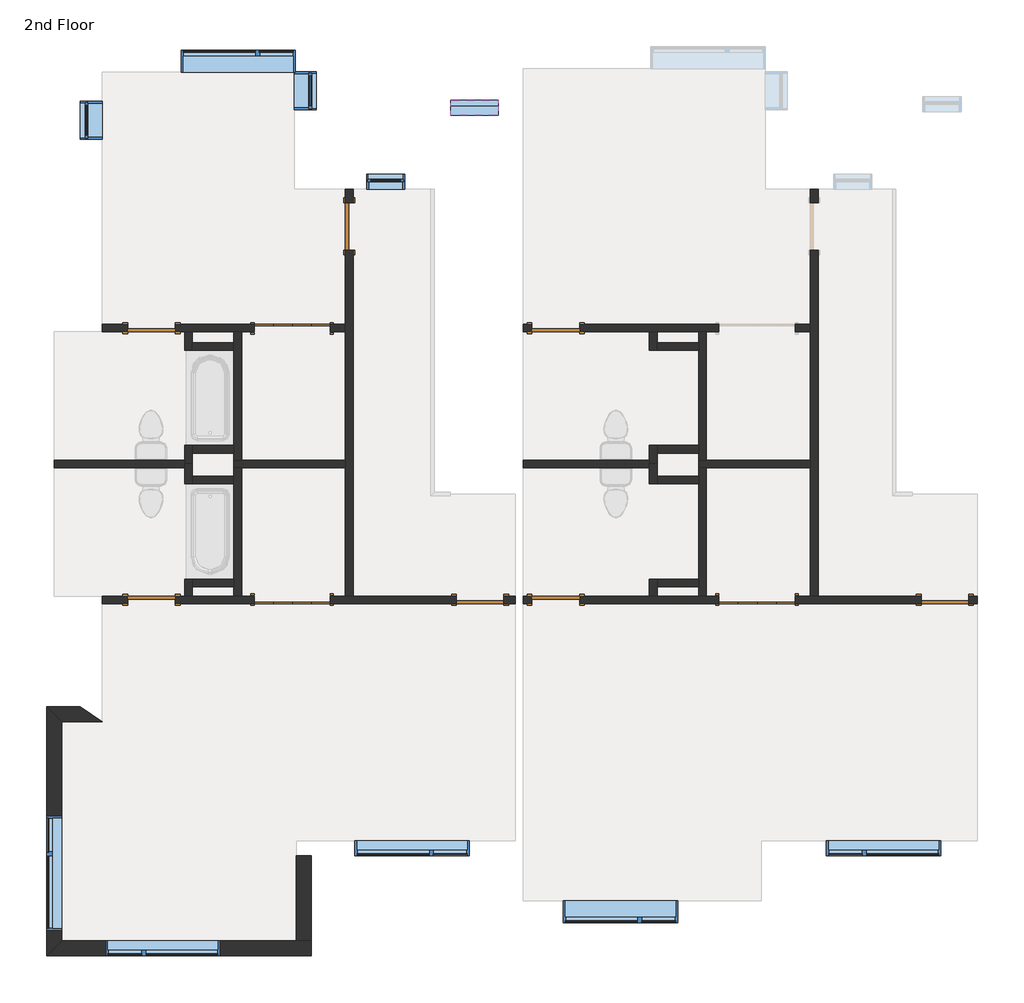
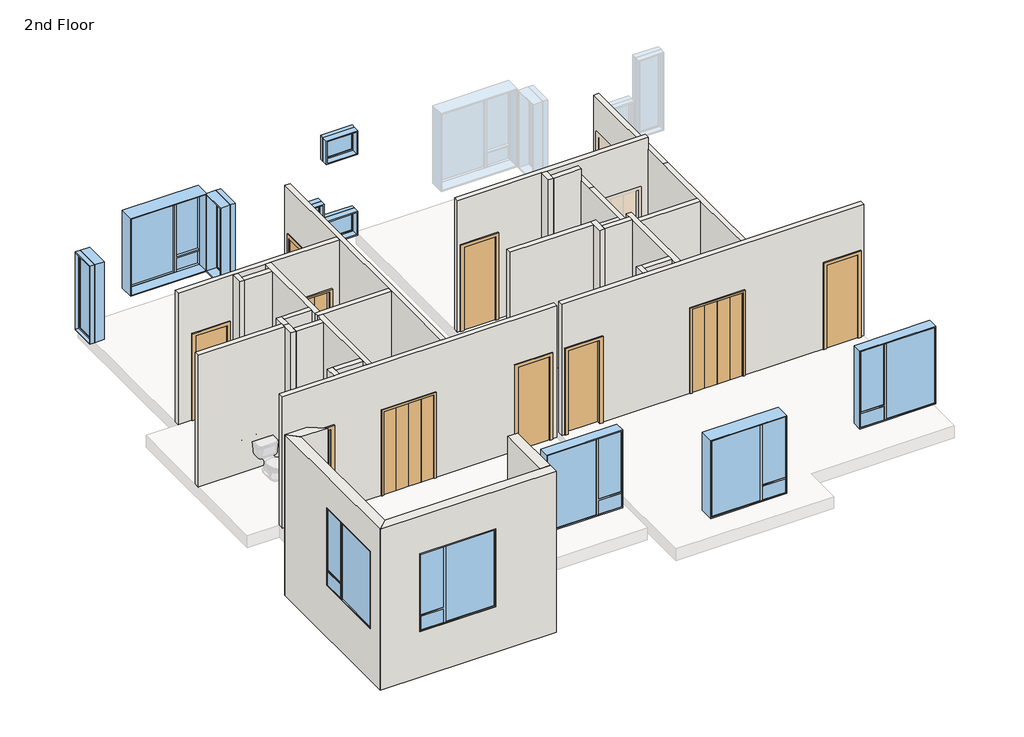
# One storey, part 1 of 2: 34 walls, 12 windows, 10 doors.
"""IFC4 building model written with IfcOpenShell, lengths in millimetres."""

from ifc_helpers import new_model, si_unit, frame, origin, place, context, project, spatial, polyline, outline, extrude, faceted_brep, transform, mapped, element, save
from components import bifold_4_panel_c9060b8c, bifold_4_panel_87549022, door_f8acb57e, door_702a1063, window_8bf192ed, window_b1c1038b, window_03925a3a, window_e558d9e9, window_dcb26459, window_1334fc74, window_9a4b9100

model = new_model("IFC4")

# Units and contexts
model_context = context("Model", 3, world=origin())
ifc_project = project(units=[si_unit("LENGTHUNIT", "METRE", prefix="MILLI")], contexts=[model_context])

# Site, building, storey
site = spatial("IfcSite", under=ifc_project)
building = spatial("IfcBuilding", under=site)
storey = spatial("IfcBuildingStorey", under=building, Name="2nd Floor", Elevation=3352.8)

# Doors
placement = place(None, origin())
bifold_4_panel_shape = bifold_4_panel_c9060b8c(model_context)
element("IfcDoor", 1, ObjectType="Bifold - 4 panel : 48\" x  84\"", at=placement, inside=storey, context=model_context, shape_type="MappedRepresentation", body=[
    mapped(bifold_4_panel_shape, transform((2169.4655789, -2059.4561915, 3352.8), x_axis=(1.0, 0.0, 0.0), y_axis=(0.0, 1.0, 0.0), z_axis=(0.0, 0.0, 1.0))),
])
element("IfcDoor", 2, ObjectType="Bifold - 4 panel : 48\" x  84\"", at=placement, inside=storey, context=model_context, shape_type="MappedRepresentation", body=[
    mapped(bifold_4_panel_shape, transform((-5271.2844211, -2059.4561915, 3352.8), x_axis=(1.0, 0.0, 0.0), y_axis=(0.0, 1.0, 0.0), z_axis=(0.0, 0.0, 1.0))),
])
bifold_4_panel_2_shape = bifold_4_panel_87549022(model_context)
element("IfcDoor", 3, ObjectType="Bifold - 4 panel : 48\" x  84\"", at=placement, inside=storey, context=model_context, shape_type="MappedRepresentation", body=[
    mapped(bifold_4_panel_2_shape, transform((-5271.2844211, 2292.6699206, 3352.8), x_axis=(1.0, 0.0, 0.0), y_axis=(0.0, 1.0, 0.0), z_axis=(0.0, 0.0, 1.0))),
])
door_shape = door_f8acb57e(model_context)
element("IfcDoor", 4, ObjectType="Single-Flush : 30\" x 84\"", at=placement, inside=storey, context=model_context, shape_type="MappedRepresentation", body=[
    mapped(door_shape, transform((-1052.2446781, 2292.6699206, 3352.8), x_axis=(-1.0, 0.0, 0.0), y_axis=(0.0, -1.0, 0.0), z_axis=(0.0, 0.0, 1.0))),
])
element("IfcDoor", 5, ObjectType="Single-Flush : 30\" x 84\"", at=placement, inside=storey, context=model_context, shape_type="MappedRepresentation", body=[
    mapped(door_shape, transform((-4356.8844211, 3921.3063085, 3352.8), x_axis=(0.0, 1.0, 0.0), y_axis=(-1.0, 0.0, 0.0), z_axis=(0.0, 0.0, 1.0))),
])
element("IfcDoor", 6, ObjectType="Single-Flush : 30\" x 84\"", at=placement, inside=storey, context=model_context, shape_type="MappedRepresentation", body=[
    mapped(door_shape, transform((-7524.7446781, -2059.4561915, 3352.8), x_axis=(1.0, 0.0, 0.0), y_axis=(0.0, 1.0, 0.0), z_axis=(0.0, 0.0, 1.0))),
])
door_2_shape = door_702a1063(model_context)
element("IfcDoor", 7, ObjectType="Single-Flush : 30\" x 84\"", at=placement, inside=storey, context=model_context, shape_type="MappedRepresentation", body=[
    mapped(door_2_shape, transform((-1052.2446781, -2059.4561915, 3352.8), x_axis=(-1.0, 0.0, 0.0), y_axis=(0.0, -1.0, 0.0), z_axis=(0.0, 0.0, 1.0))),
])
element("IfcDoor", 8, ObjectType="Single-Flush : 30\" x 84\"", at=placement, inside=storey, context=model_context, shape_type="MappedRepresentation", body=[
    mapped(door_2_shape, transform((5177.5155789, -2059.4561915, 3352.8), x_axis=(1.0, 0.0, 0.0), y_axis=(0.0, 1.0, 0.0), z_axis=(0.0, 0.0, 1.0))),
])
element("IfcDoor", 9, ObjectType="Single-Flush : 30\" x 84\"", at=placement, inside=storey, context=model_context, shape_type="MappedRepresentation", body=[
    mapped(door_2_shape, transform((-7524.7446781, 2292.6699206, 3352.8), x_axis=(1.0, 0.0, 0.0), y_axis=(0.0, 1.0, 0.0), z_axis=(0.0, 0.0, 1.0))),
])
element("IfcDoor", 10, ObjectType="Single-Flush : 30\" x 84\"", at=placement, inside=storey, context=model_context, shape_type="MappedRepresentation", body=[
    mapped(door_2_shape, transform((-2263.2344211, -2059.4561915, 3352.8), x_axis=(1.0, 0.0, 0.0), y_axis=(0.0, 1.0, 0.0), z_axis=(0.0, 0.0, 1.0))),
])

# Walls
element("IfcWall", 11, ObjectType="Exterior - Stucco", at=placement, inside=storey, context=model_context, shape_type="Brep", body=[
    faceted_brep([(-9204.3196781, -7758.9936915, 2952.8), (-4962.9321781, -7758.9936915, 2952.8), (-4962.9321781, -7758.9936915, 7052.8), (-9204.3196781, -7758.9936915, 7052.8), (-8255.0946781, -7758.9936915, 6096.0), (-6426.2946781, -7758.9936915, 6096.0), (-6426.2946781, -7758.9936915, 4114.8), (-8255.0946781, -7758.9936915, 4114.8), (-8963.0196781, -7517.6936915, 2952.8), (-8963.0196781, -7517.6936915, 7052.8), (-5204.2321781, -7517.6936915, 7052.8), (-4962.9321781, -7517.6936915, 7052.8), (-4962.9321781, -7517.6936915, 2952.8), (-5204.2321781, -7517.6936915, 2952.8), (-8255.0946781, -7517.6936915, 6096.0), (-8255.0946781, -7517.6936915, 4114.8), (-6426.2946781, -7517.6936915, 4114.8), (-6426.2946781, -7517.6936915, 6096.0)], [[[0, 1, 2, 3], [4, 5, 6, 7]], [[8, 9, 10, 11, 12, 13], [14, 15, 16, 17]], [[1, 0, 8, 13, 12]], [[3, 2, 11, 10, 9]], [[0, 3, 9, 8]], [[2, 1, 12, 11]], [[15, 14, 4, 7]], [[16, 15, 7, 6]], [[17, 16, 6, 5]], [[14, 17, 5, 4]]]),
])
element("IfcWall", 12, ObjectType="Exterior - Stucco", at=placement, inside=storey, context=model_context, shape_type="Brep", body=[
    faceted_brep([(-9204.3196781, -3770.7811915, 2952.8), (-9204.3196781, -7758.9936915, 2952.8), (-9204.3196781, -7758.9936915, 7052.8), (-9204.3196781, -3770.7811915, 7052.8), (-9204.3196781, -5519.0311915, 6248.4), (-9204.3196781, -7347.8311915, 6248.4), (-9204.3196781, -7347.8311915, 4267.2), (-9204.3196781, -5519.0311915, 4267.2), (-8963.0196781, -4012.0811915, 2952.8), (-8963.0196781, -4012.0811915, 7052.8), (-8963.0196781, -7517.6936915, 7052.8), (-8963.0196781, -7517.6936915, 2952.8), (-8963.0196781, -5519.0311915, 6248.4), (-8963.0196781, -5519.0311915, 4267.2), (-8963.0196781, -7347.8311915, 4267.2), (-8963.0196781, -7347.8311915, 6248.4)], [[[0, 1, 2, 3], [4, 5, 6, 7]], [[8, 9, 10, 11], [12, 13, 14, 15]], [[1, 0, 8, 11]], [[3, 2, 10, 9]], [[2, 1, 11, 10]], [[0, 3, 9, 8]], [[13, 12, 4, 7]], [[14, 13, 7, 6]], [[15, 14, 6, 5]], [[12, 15, 5, 4]]]),
])
element("IfcWall", 13, ObjectType="Exterior - Stucco", at=placement, inside=storey, context=model_context, shape_type="SweptSolid", body=[
    extrude(outline(polyline([(-9204.3196781, -3770.7811915), (-8664.6696781, -3770.7811915), (-8312.2446781, -4012.0811915), (-8963.0196781, -4012.0811915), (-9204.3196781, -3770.7811915)])), frame((0.0, 0.0, 2952.8), z_axis=(0.0, 0.0, 1.0), x_axis=(1.0, 0.0, 0.0)), (0.0, 0.0, 1.0), 4100.0),
])
element("IfcWall", 14, ObjectType="Exterior - Stucco", at=placement, inside=storey, context=model_context, shape_type="SweptSolid", body=[
    extrude(outline(polyline([(-4962.9321781, -6155.1546456), (-4962.9321781, -7517.6936915), (-5204.2321781, -7517.6936915), (-5204.2321781, -6155.1546456), (-4962.9321781, -6155.1546456)])), frame((0.0, 0.0, 2952.75), z_axis=(0.0, 0.0, 1.0), x_axis=(1.0, 0.0, 0.0)), (0.0, 0.0, 1.0), 4099.9171875),
])
element("IfcWall", 15, ObjectType="Interior - 4 7/8\" Partition (1-hr)", at=placement, inside=storey, context=model_context, shape_type="Brep", body=[
    faceted_brep([(3145.7780789, 4302.3063085, 5486.4), (3145.7780789, 4302.3063085, 3352.8), (3145.7780789, 4511.8563085, 3352.8), (3145.7780789, 4511.8563085, 6400.8), (3145.7780789, 1625.1313085, 6400.8), (3145.7780789, -1997.5436915, 6400.8), (3145.7780789, -1997.5436915, 3352.8), (3145.7780789, 3540.3063085, 3352.8), (3145.7780789, 3540.3063085, 5486.4), (3021.9530789, 4511.8563085, 3352.8), (3021.9530789, 4302.3063085, 3352.8), (3021.9530789, 4302.3063085, 5486.4), (3021.9530789, 3540.3063085, 5486.4), (3021.9530789, 3540.3063085, 3352.8), (3021.9530789, 2354.5824206, 3352.8), (3021.9530789, 2230.7574206, 3352.8), (3021.9530789, 178.5193646, 3352.8), (3021.9530789, 54.6943646, 3352.8), (3021.9530789, -1997.5436915, 3352.8), (3021.9530789, -1997.5436915, 6400.8), (3021.9530789, 54.6943646, 6400.8), (3021.9530789, 178.5193646, 6400.8), (3021.9530789, 1625.1313085, 6400.8), (3021.9530789, 4511.8563085, 6400.8)], [[[0, 1, 2, 3, 4, 5, 6, 7, 8]], [[9, 10, 11, 12, 13, 14, 15, 16, 17, 18, 19, 20, 21, 22, 23]], [[2, 1, 10, 9]], [[7, 6, 18, 17, 16, 15, 14, 13]], [[9, 23, 3, 2]], [[23, 22, 4, 3]], [[22, 21, 20, 19, 5, 4]], [[19, 18, 6, 5]], [[11, 10, 1, 0]], [[12, 11, 0, 8]], [[13, 12, 8, 7]]]),
])
element("IfcWall", 16, ObjectType="Interior - 4 7/8\" Partition (1-hr)", at=placement, inside=storey, context=model_context, shape_type="Brep", body=[
    faceted_brep([(3021.9530789, 178.5193646, 3352.8), (1358.9780789, 178.5193646, 3352.8), (1235.1530789, 178.5193646, 3352.8), (1235.1530789, 178.5193646, 6400.8), (1358.9780789, 178.5193646, 6400.8), (3021.9530789, 178.5193646, 6400.8), (3021.9530789, 54.6943646, 3352.8), (3021.9530789, 54.6943646, 6400.8), (1235.1530789, 54.6943646, 6400.8), (1235.1530789, 54.6943646, 3352.8), (1358.9780789, 54.6943646, 3352.8)], [[[0, 1, 2, 3, 4, 5]], [[6, 7, 8, 9, 10]], [[2, 1, 0, 6, 10, 9]], [[3, 2, 9, 8]], [[0, 5, 7, 6]], [[5, 4, 3, 8, 7]]]),
])
element("IfcWall", 17, ObjectType="Interior - 4 7/8\" Partition (1-hr)", at=placement, inside=storey, context=model_context, shape_type="Brep", body=[
    faceted_brep([(3021.9530789, 2354.5824206, 6705.6), (-1576.1196781, 2354.5824206, 6705.6), (-1576.1196781, 2230.7574206, 6705.6), (447.7530789, 2230.7574206, 6705.6), (571.5780789, 2230.7574206, 6705.6), (3021.9530789, 2230.7574206, 6705.6), (-1576.1196781, 2230.7574206, 3352.8), (-1433.2446781, 2230.7574206, 3352.8), (-1433.2446781, 2230.7574206, 5486.4), (-671.2446781, 2230.7574206, 5486.4), (-671.2446781, 2230.7574206, 3352.8), (447.7530789, 2230.7574206, 3352.8), (571.5780789, 2230.7574206, 3352.8), (1235.1530789, 2230.7574206, 3352.8), (1358.9780789, 2230.7574206, 3352.8), (1559.8655789, 2230.7574206, 3352.8), (1559.8655789, 2230.7574206, 5486.4), (2779.0655789, 2230.7574206, 5486.4), (2779.0655789, 2230.7574206, 3352.8), (3021.9530789, 2230.7574206, 3352.8), (3021.9530789, 2354.5824206, 3352.8), (2779.0655789, 2354.5824206, 3352.8), (2779.0655789, 2354.5824206, 5486.4), (1559.8655789, 2354.5824206, 5486.4), (1559.8655789, 2354.5824206, 3352.8), (-671.2446781, 2354.5824206, 3352.8), (-671.2446781, 2354.5824206, 5486.4), (-1433.2446781, 2354.5824206, 5486.4), (-1433.2446781, 2354.5824206, 3352.8), (-1576.1196781, 2354.5824206, 3352.8)], [[[0, 1, 2, 3, 4, 5]], [[5, 4, 3, 2, 6, 7, 8, 9, 10, 11, 12, 13, 14, 15, 16, 17, 18, 19]], [[1, 0, 20, 21, 22, 23, 24, 25, 26, 27, 28, 29]], [[20, 19, 18, 21]], [[6, 29, 28, 7]], [[24, 15, 14, 13, 12, 11, 10, 25]], [[20, 0, 5, 19]], [[1, 29, 6, 2]], [[17, 22, 21, 18]], [[22, 17, 16, 23]], [[23, 16, 15, 24]], [[27, 8, 7, 28]], [[8, 27, 26, 9]], [[9, 26, 25, 10]]]),
])
element("IfcWall", 18, ObjectType="Interior - 4 7/8\" Partition (1-hr)", at=placement, inside=storey, context=model_context, shape_type="Brep", body=[
    faceted_brep([(1358.9780789, 178.5193646, 3352.8), (1358.9780789, 2230.7574206, 3352.8), (1358.9780789, 2230.7574206, 6400.8), (1358.9780789, 1625.1313085, 6400.8), (1358.9780789, 178.5193646, 6400.8), (1235.1530789, 178.5193646, 3352.8), (1235.1530789, 178.5193646, 6400.8), (1235.1530789, 289.2824206, 6400.8), (1235.1530789, 413.1074206, 6400.8), (1235.1530789, 1625.1313085, 6400.8), (1235.1530789, 2230.7574206, 6400.8), (1235.1530789, 2230.7574206, 3352.8), (1235.1530789, 2060.9324206, 3352.8), (1235.1530789, 1937.1074206, 3352.8), (1235.1530789, 413.1074206, 3352.8), (1235.1530789, 289.2824206, 3352.8)], [[[0, 1, 2, 3, 4]], [[5, 6, 7, 8, 9, 10, 11, 12, 13, 14, 15]], [[1, 0, 5, 15, 14, 13, 12, 11]], [[0, 4, 6, 5]], [[2, 1, 11, 10]], [[3, 2, 10, 9]], [[4, 3, 9, 8, 7, 6]]]),
])
element("IfcWall", 19, ObjectType="Interior - 4 7/8\" Partition (1-hr)", at=placement, inside=storey, context=model_context, shape_type="Brep", body=[
    faceted_brep([(447.7530789, 2230.7574206, 3352.8), (447.7530789, 1937.1074206, 3352.8), (447.7530789, 1937.1074206, 6705.6), (447.7530789, 2230.7574206, 6705.6), (571.5780789, 2230.7574206, 3352.8), (571.5780789, 2230.7574206, 6705.6), (571.5780789, 2060.9324206, 6705.6), (571.5780789, 1937.1074206, 6705.6), (571.5780789, 1937.1074206, 3352.8), (571.5780789, 2060.9324206, 3352.8)], [[[0, 1, 2, 3]], [[4, 5, 6, 7, 8, 9]], [[1, 0, 4, 9, 8]], [[3, 2, 7, 6, 5]], [[2, 1, 8, 7]], [[0, 3, 5, 4]]]),
])
element("IfcWall", 20, ObjectType="Interior - 4 7/8\" Partition (1-hr)", at=placement, inside=storey, context=model_context, shape_type="SweptSolid", body=[
    extrude(outline(polyline([(1235.1530789, 1937.1074206), (571.5780789, 1937.1074206), (571.5780789, 2060.9324206), (1235.1530789, 2060.9324206), (1235.1530789, 1937.1074206)])), frame((0.0, 0.0, 3352.8), z_axis=(0.0, 0.0, 1.0), x_axis=(1.0, 0.0, 0.0)), (0.0, 0.0, 1.0), 3352.8),
])
element("IfcWall", 21, ObjectType="Interior - 4 7/8\" Partition (1-hr)", at=placement, inside=storey, context=model_context, shape_type="Brep", body=[
    faceted_brep([(571.5780789, 116.6068646, 3352.8), (571.5780789, 289.2824206, 3352.8), (571.5780789, 413.1074206, 3352.8), (571.5780789, 413.1074206, 6400.8), (571.5780789, 289.2824206, 6400.8), (571.5780789, 178.5193646, 6400.8), (571.5780789, 116.6068646, 6400.8), (447.7530789, 116.6068646, 3352.8), (447.7530789, 116.6068646, 6400.8), (447.7530789, 178.5193646, 6400.8), (447.7530789, 413.1074206, 6400.8), (447.7530789, 413.1074206, 3352.8), (447.7530789, 178.5193646, 3352.8)], [[[0, 1, 2, 3, 4, 5, 6]], [[7, 8, 9, 10, 11, 12]], [[2, 1, 0, 7, 12, 11]], [[0, 6, 8, 7]], [[3, 2, 11, 10]], [[6, 5, 4, 3, 10, 9, 8]]]),
])
element("IfcWall", 22, ObjectType="Interior - 4 7/8\" Partition (1-hr)", at=placement, inside=storey, context=model_context, shape_type="SweptSolid", body=[
    extrude(outline(polyline([(1235.1530789, 289.2824206), (571.5780789, 289.2824206), (571.5780789, 413.1074206), (1235.1530789, 413.1074206), (1235.1530789, 289.2824206)])), frame((0.0, 0.0, 3352.8), z_axis=(0.0, 0.0, 1.0), x_axis=(1.0, 0.0, 0.0)), (0.0, 0.0, 1.0), 3048.0),
])
element("IfcWall", 23, ObjectType="Interior - 4 7/8\" Partition (1-hr)", at=placement, inside=storey, context=model_context, shape_type="Brep", body=[
    faceted_brep([(5698.2155789, -1997.5436915, 6705.6), (1358.9780789, -1997.5436915, 6705.6), (1235.1530789, -1997.5436915, 6705.6), (571.5780789, -1997.5436915, 6705.6), (447.7530789, -1997.5436915, 6705.6), (-1576.1196781, -1997.5436915, 6705.6), (-1576.1196781, -2121.3686915, 6705.6), (5698.2155789, -2121.3686915, 6705.6), (5558.5155789, -2121.3686915, 5486.4), (5558.5155789, -2121.3686915, 3352.8), (5698.2155789, -2121.3686915, 3352.8), (-1576.1196781, -2121.3686915, 3352.8), (-1433.2446781, -2121.3686915, 3352.8), (-1433.2446781, -2121.3686915, 5486.4), (-671.2446781, -2121.3686915, 5486.4), (-671.2446781, -2121.3686915, 3352.8), (1559.8655789, -2121.3686915, 3352.8), (1559.8655789, -2121.3686915, 5486.4), (2779.0655789, -2121.3686915, 5486.4), (2779.0655789, -2121.3686915, 3352.8), (4796.5155789, -2121.3686915, 3352.8), (4796.5155789, -2121.3686915, 5486.4), (5698.2155789, -1997.5436915, 3352.8), (5558.5155789, -1997.5436915, 3352.8), (5558.5155789, -1997.5436915, 5486.4), (4796.5155789, -1997.5436915, 5486.4), (4796.5155789, -1997.5436915, 3352.8), (3145.7780789, -1997.5436915, 3352.8), (3021.9530789, -1997.5436915, 3352.8), (2779.0655789, -1997.5436915, 3352.8), (2779.0655789, -1997.5436915, 5486.4), (1559.8655789, -1997.5436915, 5486.4), (1559.8655789, -1997.5436915, 3352.8), (1358.9780789, -1997.5436915, 3352.8), (1235.1530789, -1997.5436915, 3352.8), (571.5780789, -1997.5436915, 3352.8), (447.7530789, -1997.5436915, 3352.8), (-671.2446781, -1997.5436915, 3352.8), (-671.2446781, -1997.5436915, 5486.4), (-1433.2446781, -1997.5436915, 5486.4), (-1433.2446781, -1997.5436915, 3352.8), (-1576.1196781, -1997.5436915, 3352.8)], [[[0, 1, 2, 3, 4, 5, 6, 7]], [[8, 9, 10, 7, 6, 11, 12, 13, 14, 15, 16, 17, 18, 19, 20, 21]], [[22, 23, 24, 25, 26, 27, 28, 29, 30, 31, 32, 33, 34, 35, 36, 37, 38, 39, 40, 41, 5, 4, 3, 2, 1, 0]], [[10, 9, 23, 22]], [[11, 41, 40, 12]], [[32, 16, 15, 37, 36, 35, 34, 33]], [[20, 19, 29, 28, 27, 26]], [[22, 0, 7, 10]], [[5, 41, 11, 6]], [[30, 29, 19, 18]], [[31, 30, 18, 17]], [[32, 31, 17, 16]], [[39, 13, 12, 40]], [[13, 39, 38, 14]], [[14, 38, 37, 15]], [[24, 23, 9, 8]], [[25, 24, 8, 21]], [[26, 25, 21, 20]]]),
])
element("IfcWall", 24, ObjectType="Interior - 4 7/8\" Partition (1-hr)", at=placement, inside=storey, context=model_context, shape_type="Brep", body=[
    faceted_brep([(1235.1530789, 54.6943646, 3352.8), (1235.1530789, -76.6556354, 3352.8), (1235.1530789, -200.4806354, 3352.8), (1235.1530789, -1724.4806354, 3352.8), (1235.1530789, -1848.3056354, 3352.8), (1235.1530789, -1997.5436915, 3352.8), (1235.1530789, -1997.5436915, 6705.6), (1235.1530789, -1848.3056354, 6705.6), (1235.1530789, -1724.4806354, 6705.6), (1235.1530789, -200.4806354, 6705.6), (1235.1530789, -76.6556354, 6705.6), (1235.1530789, 54.6943646, 6705.6), (1235.1530789, 54.6943646, 6400.8), (1358.9780789, 54.6943646, 3352.8), (1358.9780789, 54.6943646, 6705.6), (1358.9780789, -1997.5436915, 6705.6), (1358.9780789, -1997.5436915, 3352.8)], [[[0, 1, 2, 3, 4, 5, 6, 7, 8, 9, 10, 11, 12]], [[13, 14, 15, 16]], [[5, 4, 3, 2, 1, 0, 13, 16]], [[11, 10, 9, 8, 7, 6, 15, 14]], [[6, 5, 16, 15]], [[0, 12, 11, 14, 13]]]),
])
element("IfcWall", 25, ObjectType="Interior - 4 7/8\" Partition (1-hr)", at=placement, inside=storey, context=model_context, shape_type="Brep", body=[
    faceted_brep([(571.5780789, -1997.5436915, 3352.8), (571.5780789, -1848.3056354, 3352.8), (571.5780789, -1724.4806354, 3352.8), (571.5780789, -1724.4806354, 6705.6), (571.5780789, -1848.3056354, 6705.6), (571.5780789, -1997.5436915, 6705.6), (447.7530789, -1997.5436915, 3352.8), (447.7530789, -1997.5436915, 6705.6), (447.7530789, -1724.4806354, 6705.6), (447.7530789, -1724.4806354, 3352.8)], [[[0, 1, 2, 3, 4, 5]], [[6, 7, 8, 9]], [[2, 1, 0, 6, 9]], [[5, 4, 3, 8, 7]], [[3, 2, 9, 8]], [[0, 5, 7, 6]]]),
])
element("IfcWall", 26, ObjectType="Interior - 4 7/8\" Partition (1-hr)", at=placement, inside=storey, context=model_context, shape_type="SweptSolid", body=[
    extrude(outline(polyline([(1235.1530789, -1848.3056354), (571.5780789, -1848.3056354), (571.5780789, -1724.4806354), (1235.1530789, -1724.4806354), (1235.1530789, -1848.3056354)])), frame((0.0, 0.0, 3352.8), z_axis=(0.0, 0.0, 1.0), x_axis=(1.0, 0.0, 0.0)), (0.0, 0.0, 1.0), 3352.8),
])
element("IfcWall", 27, ObjectType="Interior - 4 7/8\" Partition (1-hr)", at=placement, inside=storey, context=model_context, shape_type="Brep", body=[
    faceted_brep([(447.7530789, 116.6068646, 3352.8), (447.7530789, 54.6943646, 3352.8), (447.7530789, -200.4806354, 3352.8), (447.7530789, -200.4806354, 6705.6), (447.7530789, 54.6943646, 6705.6), (447.7530789, 178.5193646, 6705.6), (447.7530789, 178.5193646, 6400.8), (447.7530789, 116.6068646, 6400.8), (571.5780789, 116.6068646, 3352.8), (571.5780789, 116.6068646, 6400.8), (571.5780789, 178.5193646, 6400.8), (571.5780789, 178.5193646, 6705.6), (571.5780789, -76.6556354, 6705.6), (571.5780789, -200.4806354, 6705.6), (571.5780789, -200.4806354, 3352.8), (571.5780789, -76.6556354, 3352.8)], [[[0, 1, 2, 3, 4, 5, 6, 7]], [[8, 9, 10, 11, 12, 13, 14, 15]], [[2, 1, 0, 8, 15, 14]], [[5, 4, 3, 13, 12, 11]], [[3, 2, 14, 13]], [[0, 7, 9, 8]], [[6, 10, 9, 7]], [[6, 5, 11, 10]]]),
])
element("IfcWall", 28, ObjectType="Interior - 4 7/8\" Partition (1-hr)", at=placement, inside=storey, context=model_context, shape_type="SweptSolid", body=[
    extrude(outline(polyline([(1235.1530789, -200.4806354), (571.5780789, -200.4806354), (571.5780789, -76.6556354), (1235.1530789, -76.6556354), (1235.1530789, -200.4806354)])), frame((0.0, 0.0, 3352.8), z_axis=(0.0, 0.0, 1.0), x_axis=(1.0, 0.0, 0.0)), (0.0, 0.0, 1.0), 3352.8),
])
element("IfcWall", 29, ObjectType="Interior - 4 7/8\" Partition (1-hr)", at=placement, inside=storey, context=model_context, shape_type="Brep", body=[
    faceted_brep([(447.7530789, 178.5193646, 6705.6), (447.7530789, 178.5193646, 6400.8), (447.7530789, 178.5193646, 3352.8), (-1576.1196781, 178.5193646, 3352.8), (-1576.1196781, 178.5193646, 6705.6), (447.7530789, 54.6943646, 3352.8), (447.7530789, 54.6943646, 6705.6), (-1576.1196781, 54.6943646, 6705.6), (-1576.1196781, 54.6943646, 3352.8), (447.7530789, 116.6068646, 3352.8)], [[[0, 1, 2, 3, 4]], [[5, 6, 7, 8]], [[3, 2, 9, 5, 8]], [[0, 4, 7, 6]], [[0, 6, 5, 9, 2, 1]], [[4, 3, 8, 7]]]),
])
element("IfcWall", 30, ObjectType="Interior - 4 7/8\" Partition (1-hr)", at=placement, inside=storey, context=model_context, shape_type="Brep", body=[
    faceted_brep([(-4418.7969211, 4511.8563085, 6705.6), (-4418.7969211, 2354.5824206, 6705.6), (-4418.7969211, 2230.7574206, 6705.6), (-4418.7969211, 178.5193646, 6705.6), (-4418.7969211, 54.6943646, 6705.6), (-4418.7969211, -1997.5436915, 6705.6), (-4294.9719211, -1997.5436915, 6705.6), (-4294.9719211, 4511.8563085, 6705.6), (-4294.9719211, 4302.3063085, 5486.4), (-4294.9719211, 4302.3063085, 3352.8), (-4294.9719211, 4511.8563085, 3352.8), (-4294.9719211, -1997.5436915, 3352.8), (-4294.9719211, 3540.3063085, 3352.8), (-4294.9719211, 3540.3063085, 5486.4), (-4418.7969211, 4511.8563085, 3352.8), (-4418.7969211, 4302.3063085, 3352.8), (-4418.7969211, 4302.3063085, 5486.4), (-4418.7969211, 3540.3063085, 5486.4), (-4418.7969211, 3540.3063085, 3352.8), (-4418.7969211, 2354.5824206, 3352.8), (-4418.7969211, 2230.7574206, 3352.8), (-4418.7969211, 178.5193646, 3352.8), (-4418.7969211, 54.6943646, 3352.8), (-4418.7969211, -1997.5436915, 3352.8)], [[[0, 1, 2, 3, 4, 5, 6, 7]], [[8, 9, 10, 7, 6, 11, 12, 13]], [[14, 15, 16, 17, 18, 19, 20, 21, 22, 23, 5, 4, 3, 2, 1, 0]], [[10, 9, 15, 14]], [[12, 11, 23, 22, 21, 20, 19, 18]], [[5, 23, 11, 6]], [[14, 0, 7, 10]], [[16, 15, 9, 8]], [[17, 16, 8, 13]], [[18, 17, 13, 12]]]),
])
element("IfcWall", 31, ObjectType="Interior - 4 7/8\" Partition (1-hr)", at=placement, inside=storey, context=model_context, shape_type="Brep", body=[
    faceted_brep([(-4418.7969211, 178.5193646, 3352.8), (-6081.7719211, 178.5193646, 3352.8), (-6205.5969211, 178.5193646, 3352.8), (-6205.5969211, 178.5193646, 6705.6), (-6081.7719211, 178.5193646, 6705.6), (-4418.7969211, 178.5193646, 6705.6), (-4418.7969211, 54.6943646, 3352.8), (-4418.7969211, 54.6943646, 6705.6), (-6081.7719211, 54.6943646, 6705.6), (-6205.5969211, 54.6943646, 6705.6), (-6205.5969211, 54.6943646, 3352.8), (-6081.7719211, 54.6943646, 3352.8)], [[[0, 1, 2, 3, 4, 5]], [[6, 7, 8, 9, 10, 11]], [[2, 1, 0, 6, 11, 10]], [[5, 4, 3, 9, 8, 7]], [[3, 2, 10, 9]], [[0, 5, 7, 6]]]),
])
element("IfcWall", 32, ObjectType="Interior - 4 7/8\" Partition (1-hr)", at=placement, inside=storey, context=model_context, shape_type="Brep", body=[
    faceted_brep([(-4418.7969211, 2354.5824206, 6705.6), (-8312.2446781, 2354.5824206, 6705.6), (-8312.2446781, 2230.7574206, 6705.6), (-6992.9969211, 2230.7574206, 6705.6), (-6869.1719211, 2230.7574206, 6705.6), (-6205.5969211, 2230.7574206, 6705.6), (-6081.7719211, 2230.7574206, 6705.6), (-4418.7969211, 2230.7574206, 6705.6), (-8312.2446781, 2230.7574206, 3352.8), (-7905.7446781, 2230.7574206, 3352.8), (-7905.7446781, 2230.7574206, 5486.4), (-7143.7446781, 2230.7574206, 5486.4), (-7143.7446781, 2230.7574206, 3352.8), (-6992.9969211, 2230.7574206, 3352.8), (-6869.1719211, 2230.7574206, 3352.8), (-6205.5969211, 2230.7574206, 3352.8), (-6081.7719211, 2230.7574206, 3352.8), (-5880.8844211, 2230.7574206, 3352.8), (-5880.8844211, 2230.7574206, 5486.4), (-4661.6844211, 2230.7574206, 5486.4), (-4661.6844211, 2230.7574206, 3352.8), (-4418.7969211, 2230.7574206, 3352.8), (-4418.7969211, 2354.5824206, 3352.8), (-4661.6844211, 2354.5824206, 3352.8), (-4661.6844211, 2354.5824206, 5486.4), (-5880.8844211, 2354.5824206, 5486.4), (-5880.8844211, 2354.5824206, 3352.8), (-7143.7446781, 2354.5824206, 3352.8), (-7143.7446781, 2354.5824206, 5486.4), (-7905.7446781, 2354.5824206, 5486.4), (-7905.7446781, 2354.5824206, 3352.8), (-8312.2446781, 2354.5824206, 3352.8)], [[[0, 1, 2, 3, 4, 5, 6, 7]], [[7, 6, 5, 4, 3, 2, 8, 9, 10, 11, 12, 13, 14, 15, 16, 17, 18, 19, 20, 21]], [[1, 0, 22, 23, 24, 25, 26, 27, 28, 29, 30, 31]], [[22, 21, 20, 23]], [[8, 31, 30, 9]], [[26, 17, 16, 15, 14, 13, 12, 27]], [[22, 0, 7, 21]], [[1, 31, 8, 2]], [[19, 24, 23, 20]], [[24, 19, 18, 25]], [[25, 18, 17, 26]], [[11, 28, 27, 12]], [[28, 11, 10, 29]], [[29, 10, 9, 30]]]),
])
element("IfcWall", 33, ObjectType="Interior - 4 7/8\" Partition (1-hr)", at=placement, inside=storey, context=model_context, shape_type="Brep", body=[
    faceted_brep([(-1699.9446781, -1997.5436915, 6705.6), (-4294.9719211, -1997.5436915, 6705.6), (-4418.7969211, -1997.5436915, 6705.6), (-6081.7719211, -1997.5436915, 6705.6), (-6205.5969211, -1997.5436915, 6705.6), (-6869.1719211, -1997.5436915, 6705.6), (-6992.9969211, -1997.5436915, 6705.6), (-8312.2446781, -1997.5436915, 6705.6), (-8312.2446781, -2121.3686915, 6705.6), (-1699.9446781, -2121.3686915, 6705.6), (-1882.2344211, -2121.3686915, 5486.4), (-1882.2344211, -2121.3686915, 3352.8), (-1699.9446781, -2121.3686915, 3352.8), (-8312.2446781, -2121.3686915, 3352.8), (-7905.7446781, -2121.3686915, 3352.8), (-7905.7446781, -2121.3686915, 5486.4), (-7143.7446781, -2121.3686915, 5486.4), (-7143.7446781, -2121.3686915, 3352.8), (-6218.0913287, -2121.3686915, 3352.8), (-5880.8844211, -2121.3686915, 3352.8), (-5880.8844211, -2121.3686915, 5486.4), (-4661.6844211, -2121.3686915, 5486.4), (-4661.6844211, -2121.3686915, 3352.8), (-2644.2344211, -2121.3686915, 3352.8), (-2644.2344211, -2121.3686915, 5486.4), (-1699.9446781, -1997.5436915, 3352.8), (-1882.2344211, -1997.5436915, 3352.8), (-1882.2344211, -1997.5436915, 5486.4), (-2644.2344211, -1997.5436915, 5486.4), (-2644.2344211, -1997.5436915, 3352.8), (-4294.9719211, -1997.5436915, 3352.8), (-4418.7969211, -1997.5436915, 3352.8), (-4661.6844211, -1997.5436915, 3352.8), (-4661.6844211, -1997.5436915, 5486.4), (-5880.8844211, -1997.5436915, 5486.4), (-5880.8844211, -1997.5436915, 3352.8), (-6081.7719211, -1997.5436915, 3352.8), (-6205.5969211, -1997.5436915, 3352.8), (-6218.0913287, -1997.5436915, 3352.8), (-6869.1719211, -1997.5436915, 3352.8), (-6992.9969211, -1997.5436915, 3352.8), (-7143.7446781, -1997.5436915, 3352.8), (-7143.7446781, -1997.5436915, 5486.4), (-7905.7446781, -1997.5436915, 5486.4), (-7905.7446781, -1997.5436915, 3352.8), (-8312.2446781, -1997.5436915, 3352.8)], [[[0, 1, 2, 3, 4, 5, 6, 7, 8, 9]], [[10, 11, 12, 9, 8, 13, 14, 15, 16, 17, 18, 19, 20, 21, 22, 23, 24]], [[25, 26, 27, 28, 29, 30, 31, 32, 33, 34, 35, 36, 37, 38, 39, 40, 41, 42, 43, 44, 45, 7, 6, 5, 4, 3, 2, 1, 0]], [[13, 45, 44, 14]], [[12, 11, 26, 25]], [[35, 19, 18, 17, 41, 40, 39, 38, 37, 36]], [[23, 22, 32, 31, 30, 29]], [[7, 45, 13, 8]], [[25, 0, 9, 12]], [[33, 32, 22, 21]], [[34, 33, 21, 20]], [[35, 34, 20, 19]], [[16, 42, 41, 17]], [[42, 16, 15, 43]], [[43, 15, 14, 44]], [[27, 26, 11, 10]], [[28, 27, 10, 24]], [[29, 28, 24, 23]]]),
])
element("IfcWall", 34, ObjectType="Interior - 4 7/8\" Partition (1-hr)", at=placement, inside=storey, context=model_context, shape_type="Brep", body=[
    faceted_brep([(-6205.5969211, 54.6943646, 3352.8), (-6205.5969211, -76.6556354, 3352.8), (-6205.5969211, -200.4806354, 3352.8), (-6205.5969211, -1724.4806354, 3352.8), (-6205.5969211, -1848.3056354, 3352.8), (-6205.5969211, -1997.5436915, 3352.8), (-6205.5969211, -1997.5436915, 6705.6), (-6205.5969211, -1848.3056354, 6705.6), (-6205.5969211, -1724.4806354, 6705.6), (-6205.5969211, -200.4806354, 6705.6), (-6205.5969211, -76.6556354, 6705.6), (-6205.5969211, 54.6943646, 6705.6), (-6081.7719211, 54.6943646, 3352.8), (-6081.7719211, 54.6943646, 6705.6), (-6081.7719211, -1997.5436915, 6705.6), (-6081.7719211, -1997.5436915, 3352.8)], [[[0, 1, 2, 3, 4, 5, 6, 7, 8, 9, 10, 11]], [[12, 13, 14, 15]], [[5, 4, 3, 2, 1, 0, 12, 15]], [[11, 10, 9, 8, 7, 6, 14, 13]], [[6, 5, 15, 14]], [[0, 11, 13, 12]]]),
])
element("IfcWall", 35, ObjectType="Interior - 4 7/8\" Partition (1-hr)", at=placement, inside=storey, context=model_context, shape_type="Brep", body=[
    faceted_brep([(-6869.1719211, -1997.5436915, 3352.8), (-6869.1719211, -1848.3056354, 3352.8), (-6869.1719211, -1724.4806354, 3352.8), (-6869.1719211, -1724.4806354, 6705.6), (-6869.1719211, -1848.3056354, 6705.6), (-6869.1719211, -1997.5436915, 6705.6), (-6992.9969211, -1997.5436915, 3352.8), (-6992.9969211, -1997.5436915, 6705.6), (-6992.9969211, -1724.4806354, 6705.6), (-6992.9969211, -1724.4806354, 3352.8)], [[[0, 1, 2, 3, 4, 5]], [[6, 7, 8, 9]], [[2, 1, 0, 6, 9]], [[5, 4, 3, 8, 7]], [[3, 2, 9, 8]], [[0, 5, 7, 6]]]),
])
element("IfcWall", 36, ObjectType="Interior - 4 7/8\" Partition (1-hr)", at=placement, inside=storey, context=model_context, shape_type="SweptSolid", body=[
    extrude(outline(polyline([(-6205.5969211, -1848.3056354), (-6869.1719211, -1848.3056354), (-6869.1719211, -1724.4806354), (-6205.5969211, -1724.4806354), (-6205.5969211, -1848.3056354)])), frame((0.0, 0.0, 3352.8), z_axis=(0.0, 0.0, 1.0), x_axis=(1.0, 0.0, 0.0)), (0.0, 0.0, 1.0), 3352.8),
])
element("IfcWall", 37, ObjectType="Interior - 4 7/8\" Partition (1-hr)", at=placement, inside=storey, context=model_context, shape_type="Brep", body=[
    faceted_brep([(-6992.9969211, 116.6068646, 3352.8), (-6992.9969211, 54.6943646, 3352.8), (-6992.9969211, -200.4806354, 3352.8), (-6992.9969211, -200.4806354, 6705.6), (-6992.9969211, 54.6943646, 6705.6), (-6992.9969211, 116.6068646, 6705.6), (-6869.1719211, 116.6068646, 3352.8), (-6869.1719211, 116.6068646, 6705.6), (-6869.1719211, -76.6556354, 6705.6), (-6869.1719211, -200.4806354, 6705.6), (-6869.1719211, -200.4806354, 3352.8), (-6869.1719211, -76.6556354, 3352.8)], [[[0, 1, 2, 3, 4, 5]], [[6, 7, 8, 9, 10, 11]], [[2, 1, 0, 6, 11, 10]], [[5, 4, 3, 9, 8, 7]], [[0, 5, 7, 6]], [[3, 2, 10, 9]]]),
])
element("IfcWall", 38, ObjectType="Interior - 4 7/8\" Partition (1-hr)", at=placement, inside=storey, context=model_context, shape_type="SweptSolid", body=[
    extrude(outline(polyline([(-6205.5969211, -200.4806354), (-6869.1719211, -200.4806354), (-6869.1719211, -76.6556354), (-6205.5969211, -76.6556354), (-6205.5969211, -200.4806354)])), frame((0.0, 0.0, 3352.8), z_axis=(0.0, 0.0, 1.0), x_axis=(1.0, 0.0, 0.0)), (0.0, 0.0, 1.0), 3352.8),
])
element("IfcWall", 39, ObjectType="Interior - Tile Wainscot", at=placement, inside=storey, context=model_context, shape_type="Brep", body=[
    faceted_brep([(-6081.7719211, 178.5193646, 3352.8), (-6081.7719211, 2230.7574206, 3352.8), (-6081.7719211, 2230.7574206, 6705.6), (-6081.7719211, 178.5193646, 6705.6), (-6205.5969211, 178.5193646, 3352.8), (-6205.5969211, 178.5193646, 6705.6), (-6205.5969211, 289.2824206, 6705.6), (-6205.5969211, 413.1074206, 6705.6), (-6205.5969211, 1937.1074206, 6705.6), (-6205.5969211, 2060.9324206, 6705.6), (-6205.5969211, 2230.7574206, 6705.6), (-6205.5969211, 2230.7574206, 3352.8), (-6205.5969211, 2060.9324206, 3352.8), (-6205.5969211, 1937.1074206, 3352.8), (-6205.5969211, 413.1074206, 3352.8), (-6205.5969211, 289.2824206, 3352.8)], [[[0, 1, 2, 3]], [[4, 5, 6, 7, 8, 9, 10, 11, 12, 13, 14, 15]], [[1, 0, 4, 15, 14, 13, 12, 11]], [[3, 2, 10, 9, 8, 7, 6, 5]], [[0, 3, 5, 4]], [[2, 1, 11, 10]]]),
])
element("IfcWall", 40, ObjectType="Interior - Tile Wainscot", at=placement, inside=storey, context=model_context, shape_type="Brep", body=[
    faceted_brep([(-6992.9969211, 2230.7574206, 3352.8), (-6992.9969211, 1937.1074206, 3352.8), (-6992.9969211, 1937.1074206, 6705.6), (-6992.9969211, 2230.7574206, 6705.6), (-6869.1719211, 2230.7574206, 3352.8), (-6869.1719211, 2230.7574206, 6705.6), (-6869.1719211, 2060.9324206, 6705.6), (-6869.1719211, 1937.1074206, 6705.6), (-6869.1719211, 1937.1074206, 3352.8), (-6869.1719211, 2060.9324206, 3352.8)], [[[0, 1, 2, 3]], [[4, 5, 6, 7, 8, 9]], [[1, 0, 4, 9, 8]], [[3, 2, 7, 6, 5]], [[2, 1, 8, 7]], [[0, 3, 5, 4]]]),
])
element("IfcWall", 41, ObjectType="Interior - Tile Wainscot", at=placement, inside=storey, context=model_context, shape_type="SweptSolid", body=[
    extrude(outline(polyline([(-6205.5969211, 1937.1074206), (-6869.1719211, 1937.1074206), (-6869.1719211, 2060.9324206), (-6205.5969211, 2060.9324206), (-6205.5969211, 1937.1074206)])), frame((0.0, 0.0, 3352.8), z_axis=(0.0, 0.0, 1.0), x_axis=(1.0, 0.0, 0.0)), (0.0, 0.0, 1.0), 3352.8),
])
element("IfcWall", 42, ObjectType="Interior - Tile Wainscot", at=placement, inside=storey, context=model_context, shape_type="Brep", body=[
    faceted_brep([(-6869.1719211, 116.6068646, 3352.8), (-6869.1719211, 289.2824206, 3352.8), (-6869.1719211, 413.1074206, 3352.8), (-6869.1719211, 413.1074206, 6705.6), (-6869.1719211, 289.2824206, 6705.6), (-6869.1719211, 116.6068646, 6705.6), (-6992.9969211, 116.6068646, 3352.8), (-6992.9969211, 116.6068646, 6705.6), (-6992.9969211, 178.5193646, 6705.6), (-6992.9969211, 413.1074206, 6705.6), (-6992.9969211, 413.1074206, 3352.8), (-6992.9969211, 178.5193646, 3352.8)], [[[0, 1, 2, 3, 4, 5]], [[6, 7, 8, 9, 10, 11]], [[2, 1, 0, 6, 11, 10]], [[5, 4, 3, 9, 8, 7]], [[0, 5, 7, 6]], [[3, 2, 10, 9]]]),
])
element("IfcWall", 43, ObjectType="Interior - Tile Wainscot", at=placement, inside=storey, context=model_context, shape_type="SweptSolid", body=[
    extrude(outline(polyline([(-6205.5969211, 289.2824206), (-6869.1719211, 289.2824206), (-6869.1719211, 413.1074206), (-6205.5969211, 413.1074206), (-6205.5969211, 289.2824206)])), frame((0.0, 0.0, 3352.8), z_axis=(0.0, 0.0, 1.0), x_axis=(1.0, 0.0, 0.0)), (0.0, 0.0, 1.0), 3352.8),
])
element("IfcWall", 44, ObjectType="Interior - Tile Wainscot", at=placement, inside=storey, context=model_context, shape_type="Brep", body=[
    faceted_brep([(-6992.9969211, 178.5193646, 3352.8), (-9080.4946781, 178.5193646, 3352.8), (-9080.4946781, 178.5193646, 6705.6), (-6992.9969211, 178.5193646, 6705.6), (-6992.9969211, 54.6943646, 3352.8), (-6992.9969211, 54.6943646, 6705.6), (-9080.4946781, 54.6943646, 6705.6), (-9080.4946781, 54.6943646, 3352.8), (-6992.9969211, 116.6068646, 3352.8), (-6992.9969211, 116.6068646, 6705.6)], [[[0, 1, 2, 3]], [[4, 5, 6, 7]], [[1, 0, 8, 4, 7]], [[3, 2, 6, 5, 9]], [[0, 3, 9, 5, 4, 8]], [[2, 1, 7, 6]]]),
])

# Windows
window_shape = window_8bf192ed(model_context)
element("IfcWindow", 45, ObjectType="Fixed : 24\" x 30\"", at=placement, inside=storey, context=model_context, shape_type="MappedRepresentation", body=[
    mapped(window_shape, transform((-2317.4821781, 5817.7187973, 2946.4), x_axis=(1.0, 0.0, 0.0), y_axis=(0.0, 1.0, 0.0), z_axis=(0.0, 0.0, 1.0))),
])
element("IfcWindow", 46, ObjectType="Fixed : 24\" x 30\"", at=placement, inside=storey, context=model_context, shape_type="MappedRepresentation", body=[
    mapped(window_shape, transform((-2317.4821781, 5817.7187973, 5003.8), x_axis=(1.0, 0.0, 0.0), y_axis=(0.0, 1.0, 0.0), z_axis=(0.0, 0.0, 1.0))),
])
window_2_shape = window_b1c1038b(model_context)
element("IfcWindow", 47, ObjectType="Fixed : 24\" x 78\"", at=placement, inside=storey, context=model_context, shape_type="MappedRepresentation", body=[
    mapped(window_2_shape, transform((-8488.4571781, 5654.8563085, 3352.8), x_axis=(0.0, 1.0, 0.0), y_axis=(-1.0, 0.0, 0.0), z_axis=(0.0, 0.0, 1.0))),
])
element("IfcWindow", 48, ObjectType="Fixed : 24\" x 78\"", at=placement, inside=storey, context=model_context, shape_type="MappedRepresentation", body=[
    mapped(window_2_shape, transform((-5059.2321781, 6051.7313085, 3352.8), x_axis=(0.0, -1.0, 0.0), y_axis=(1.0, 0.0, 0.0), z_axis=(0.0, 0.0, 1.0))),
])
window_3_shape = window_03925a3a(model_context)
element("IfcWindow", 49, ObjectType="Fixed : 24\" x 78\"", at=placement, inside=storey, context=model_context, shape_type="MappedRepresentation", body=[
    mapped(window_3_shape, transform((-3737.7610601, 4632.5063085, 3606.8), x_axis=(1.0, 0.0, 0.0), y_axis=(0.0, 1.0, 0.0), z_axis=(0.0, 0.0, 1.0))),
])
element("IfcWindow", 50, ObjectType="Fixed : 24\" x 78\"", at=placement, inside=storey, context=model_context, shape_type="MappedRepresentation", body=[
    mapped(window_3_shape, transform((-3737.7610601, 4632.5063085, 1346.2), x_axis=(1.0, 0.0, 0.0), y_axis=(0.0, 1.0, 0.0), z_axis=(0.0, 0.0, 1.0))),
])
window_4_shape = window_e558d9e9(model_context)
element("IfcWindow", 51, ObjectType="Window-Casement-Double-Sidelight : 72\" x 78\"", at=placement, inside=storey, context=model_context, shape_type="MappedRepresentation", body=[
    mapped(window_4_shape, transform((-9083.6696781, -6433.4311915, 3352.8), x_axis=(0.0, 1.0, 0.0), y_axis=(-1.0, 0.0, 0.0), z_axis=(0.0, 0.0, 1.0))),
])
element("IfcWindow", 52, ObjectType="Window-Casement-Double-Sidelight : 72\" x 78\"", at=placement, inside=storey, context=model_context, shape_type="MappedRepresentation", body=[
    mapped(window_4_shape, transform((-7340.6946781, -7638.3436915, 3200.4), x_axis=(-1.0, 0.0, 0.0), y_axis=(0.0, -1.0, 0.0), z_axis=(0.0, 0.0, 1.0))),
])
element("IfcWindow", 53, ObjectType="Window-Casement-Double-Sidelight : 72\" x 78\"", at=placement, inside=storey, context=model_context, shape_type="MappedRepresentation", body=[
    mapped(window_4_shape, transform((4195.3655789, -6034.5046456, 3352.8), x_axis=(-1.0, 0.0, 0.0), y_axis=(0.0, -1.0, 0.0), z_axis=(0.0, 0.0, 1.0))),
])
window_5_shape = window_dcb26459(model_context)
element("IfcWindow", 54, ObjectType="Window-Casement-Double-Sidelight : 72\" x 78\"", at=placement, inside=storey, context=model_context, shape_type="MappedRepresentation", body=[
    mapped(window_5_shape, transform((-6134.0446781, 6565.7063085, 2743.2), x_axis=(1.0, 0.0, 0.0), y_axis=(0.0, 1.0, 0.0), z_axis=(0.0, 0.0, 1.0))),
])
window_6_shape = window_1334fc74(model_context)
element("IfcWindow", 55, ObjectType="Window-Casement-Double-Sidelight : 72\" x 78\"", at=placement, inside=storey, context=model_context, shape_type="MappedRepresentation", body=[
    mapped(window_6_shape, transform((-16.2061336, -7054.5811915, 3200.4), x_axis=(1.0, 0.0, 0.0), y_axis=(0.0, 1.0, 0.0), z_axis=(0.0, 0.0, 1.0))),
])
window_7_shape = window_9a4b9100(model_context)
element("IfcWindow", 56, ObjectType="Window-Casement-Double-Sidelight : 72\" x 78\"", at=placement, inside=storey, context=model_context, shape_type="MappedRepresentation", body=[
    mapped(window_7_shape, transform((-3352.6515857, -6034.5046456, 3352.8), x_axis=(1.0, 0.0, 0.0), y_axis=(0.0, 1.0, 0.0), z_axis=(0.0, 0.0, 1.0))),
])

save(model, "model.ifc")
